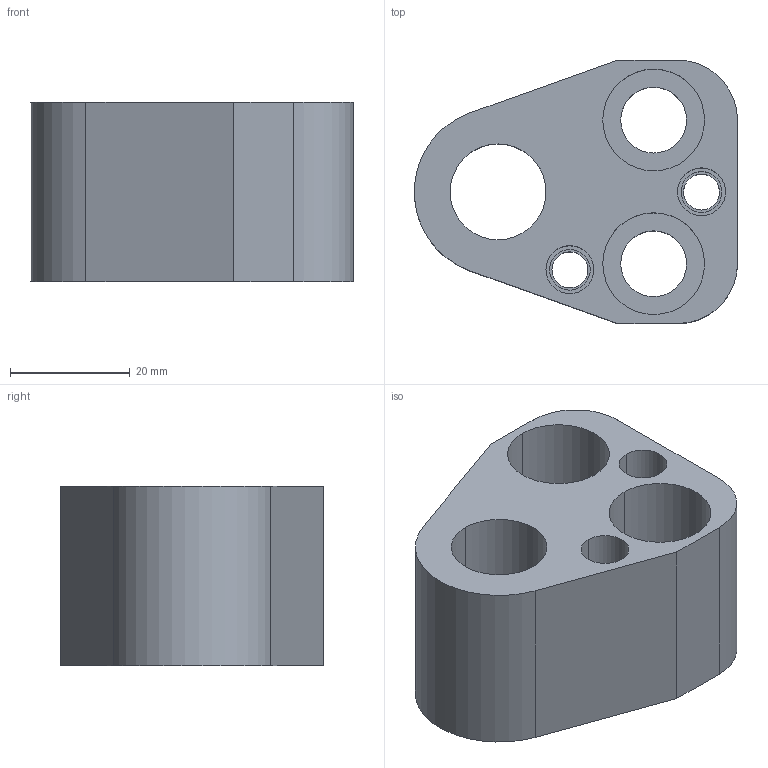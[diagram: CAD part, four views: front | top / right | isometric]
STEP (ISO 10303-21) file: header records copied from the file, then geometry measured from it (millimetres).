
FILE_DESCRIPTION(/* description */ (''),/* implementation_level */ '2;1');
FILE_NAME(/* name */ '3d_ap-an16_03189_r00.stp',/* time_stamp */ '2011-01-10T14:17:47+09:00',/* author */ ('MISUMI'),/* organization */ (''),/* preprocessor_version */ 'ST-DEVELOPER v11',/* originating_system */ 'UGS - NX 5.0',/* authorisation */ '');
FILE_SCHEMA (('CONFIG_CONTROL_DESIGN'));
Length unit declared in the file: millimetre
Products named in the file (1): 3d_ap-an16_03189_r00
Bounding box: 53.95 x 44 x 30 mm (x, y, z)
Volume: 37329.1 mm3; surface area: 13293.3 mm2
Topology: 1 solids, 1 shells, 43 faces, 100 edges, 66 vertices
Faces by surface type: cylinder 27, plane 14, cone 2
Entity records: 1360 total; most frequent: DIRECTION 244, CARTESIAN_POINT 210, ORIENTED_EDGE 200, EDGE_CURVE 100, AXIS2_PLACEMENT_3D 100, VERTEX_POINT 66, EDGE_LOOP 60, CIRCLE 56
